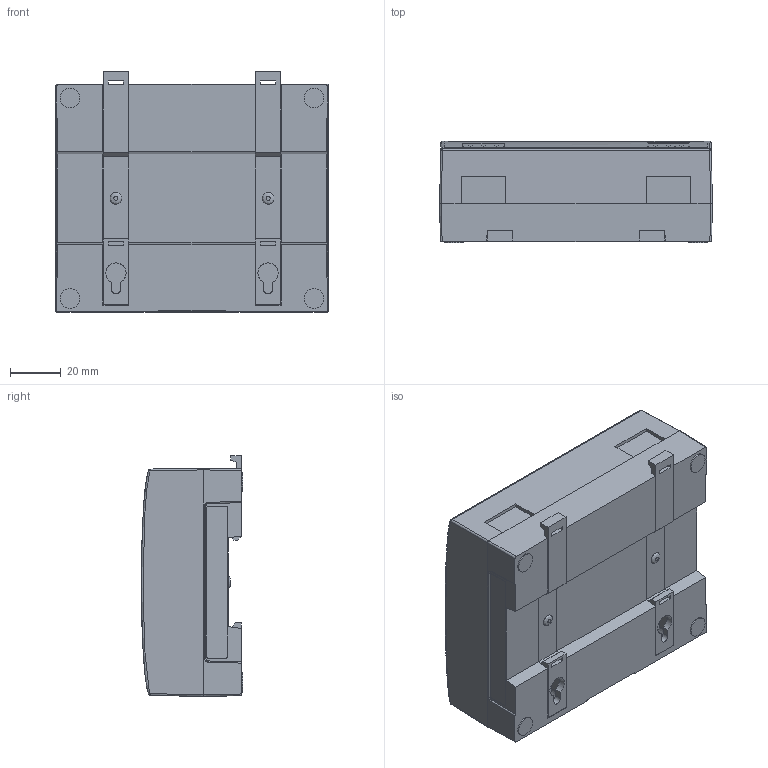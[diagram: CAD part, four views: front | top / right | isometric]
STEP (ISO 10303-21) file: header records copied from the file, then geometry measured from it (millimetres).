
FILE_DESCRIPTION(/* description */ ('STEP AP242','CAx-IF Rec.Pracs.---Representation and Presentation of Product Manufacturing Information (PMI)---4.0---2014-10-13','CAx-IF Rec.Pracs.---3D Tessellated Geometry---0.4---2014-09-14','2;1'),/* implementation_level */ '2;1');
FILE_NAME(/* name */ '6634d1815996e81fac3b0ffb',/* time_stamp */ '2024-05-03T11:58:59Z',/* author */ (''),/* organization */ (''),/* preprocessor_version */ 'ST-DEVELOPER v20',/* originating_system */ ' ',/* authorisation */ ' ');
FILE_SCHEMA (('AP242_MANAGED_MODEL_BASED_3D_ENGINEERING_MIM_LF { 1 0 10303 442 1 1 4 }'));
Length unit declared in the file: metre
Products named in the file (1): Repeat
Bounding box: 107.5 x 40 x 94.94 mm (x, y, z)
Volume: 348871.5 mm3; surface area: 38108.4 mm2
Topology: 1 solids, 1 shells, 1100 faces, 2893 edges, 1910 vertices
Faces by surface type: plane 890, cylinder 123, bspline 83, sphere 4
Full cylindrical faces by diameter (mm): 0.544 x7, 0.705 x7, 0.866 x7, 0.99 x7, 1.485 x1, 1.8 x1, 2.3 x5, 7.8 x4, 9.9 x1, 10.782 x1
Entity records: 42636 total; most frequent: CARTESIAN_POINT 15112, ORIENTED_EDGE 5684, DIRECTION 4644, EDGE_CURVE 2842, LINE 2396, VECTOR 2396, VERTEX_POINT 1906, EDGE_LOOP 1266
